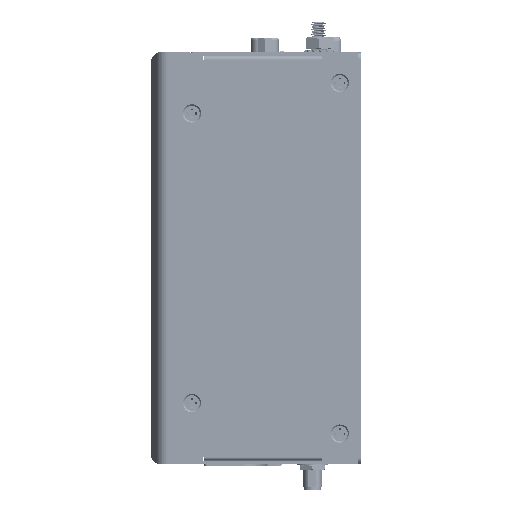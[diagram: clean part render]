
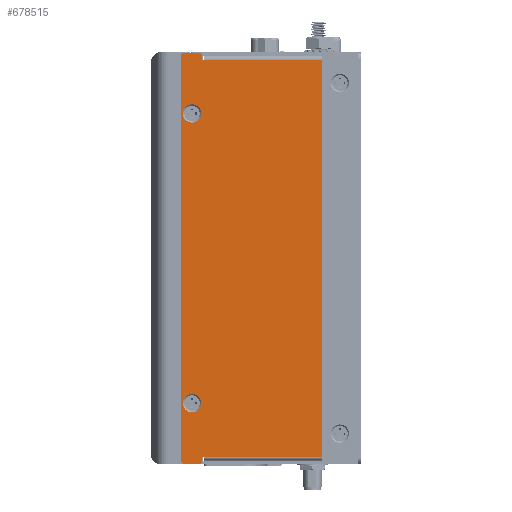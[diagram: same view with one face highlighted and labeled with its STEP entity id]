
A CAD part, left-side view. The second image highlights one B-rep face of the part: STEP entity #678515.
In plain terms, the highlighted planar face has unit normal (-1, 0, 0).
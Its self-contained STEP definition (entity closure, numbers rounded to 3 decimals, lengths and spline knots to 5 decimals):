
#201484=CARTESIAN_POINT('',(-0.075,0.0555,0.0475));
#201485=DIRECTION('',(1.,0.,0.));
#201486=DIRECTION('',(0.,0.,-1.));
#201487=AXIS2_PLACEMENT_3D('',#201484,#201485,#201486);
#201489=CARTESIAN_POINT('',(-0.075,0.0555,0.0475));
#201490=DIRECTION('',(1.,0.,0.));
#201491=DIRECTION('',(0.,0.,1.));
#201492=AXIS2_PLACEMENT_3D('',#201489,#201490,#201491);
#201494=CARTESIAN_POINT('',(-0.075,0.0555,-0.0475));
#201495=DIRECTION('',(1.,0.,0.));
#201496=DIRECTION('',(0.,0.,-1.));
#201497=AXIS2_PLACEMENT_3D('',#201494,#201495,#201496);
#201499=CARTESIAN_POINT('',(-0.075,0.0555,-0.0475));
#201500=DIRECTION('',(1.,0.,0.));
#201501=DIRECTION('',(0.,0.,1.));
#201502=AXIS2_PLACEMENT_3D('',#201499,#201500,#201501);
#201504=DIRECTION('',(0.,0.,1.));
#201505=VECTOR('',#201504,0.13035);
#201506=CARTESIAN_POINT('',(-0.075,0.013,-0.06515));
#201507=LINE('',#201506,#201505);
#201508=CARTESIAN_POINT('',(-0.075,0.05305,-0.0664));
#201509=DIRECTION('',(-1.,0.,0.));
#201510=DIRECTION('',(0.,0.,-1.));
#201511=AXIS2_PLACEMENT_3D('',#201508,#201509,#201510);
#201513=CARTESIAN_POINT('',(-0.075,0.05805,-0.0664));
#201514=DIRECTION('',(-1.,0.,0.));
#201515=DIRECTION('',(0.,1.,0.));
#201516=AXIS2_PLACEMENT_3D('',#201513,#201514,#201515);
#201518=CARTESIAN_POINT('',(-0.075,0.05805,0.0664));
#201519=DIRECTION('',(-1.,0.,0.));
#201520=DIRECTION('',(0.,0.,1.));
#201521=AXIS2_PLACEMENT_3D('',#201518,#201519,#201520);
#201523=CARTESIAN_POINT('',(-0.075,0.05305,0.0664));
#201524=DIRECTION('',(-1.,0.,0.));
#201525=DIRECTION('',(0.,-1.,0.));
#201526=AXIS2_PLACEMENT_3D('',#201523,#201524,#201525);
#201602=DIRECTION('',(0.,-1.,0.));
#201603=VECTOR('',#201602,0.03855);
#201604=CARTESIAN_POINT('',(-0.075,0.05155,0.0652));
#201605=LINE('',#201604,#201603);
#203275=DIRECTION('',(0.,-1.,0.));
#203276=VECTOR('',#203275,0.0005);
#203277=CARTESIAN_POINT('',(-0.075,0.05205,0.0652));
#203278=LINE('',#203277,#203276);
#203283=DIRECTION('',(0.,0.,-1.));
#203284=VECTOR('',#203283,0.0012);
#203285=CARTESIAN_POINT('',(-0.075,0.05205,0.0664));
#203286=LINE('',#203285,#203284);
#203303=DIRECTION('',(0.,-1.,0.));
#203304=VECTOR('',#203303,0.005);
#203305=CARTESIAN_POINT('',(-0.075,0.05805,0.0674));
#203306=LINE('',#203305,#203304);
#203315=DIRECTION('',(0.,0.,1.));
#203316=VECTOR('',#203315,0.1328);
#203317=CARTESIAN_POINT('',(-0.075,0.05905,-0.0664));
#203318=LINE('',#203317,#203316);
#203327=DIRECTION('',(0.,1.,0.));
#203328=VECTOR('',#203327,0.005);
#203329=CARTESIAN_POINT('',(-0.075,0.05305,-0.0674));
#203330=LINE('',#203329,#203328);
#203347=DIRECTION('',(0.,0.,-1.));
#203348=VECTOR('',#203347,0.00125);
#203349=CARTESIAN_POINT('',(-0.075,0.05205,-0.06515));
#203350=LINE('',#203349,#203348);
#203359=DIRECTION('',(0.,1.,0.));
#203360=VECTOR('',#203359,0.0005);
#203361=CARTESIAN_POINT('',(-0.075,0.05155,-0.06515));
#203362=LINE('',#203361,#203360);
#203393=DIRECTION('',(0.,1.,0.));
#203394=VECTOR('',#203393,0.03855);
#203395=CARTESIAN_POINT('',(-0.075,0.013,-0.06515));
#203396=LINE('',#203395,#203394);
#372619=CARTESIAN_POINT('',(-0.075,0.05205,0.0664));
#372620=CARTESIAN_POINT('',(-0.075,0.05305,0.0674));
#372621=VERTEX_POINT('',#372619);
#372622=VERTEX_POINT('',#372620);
#372623=CARTESIAN_POINT('',(-0.075,0.05205,0.0652));
#372624=VERTEX_POINT('',#372623);
#372625=CARTESIAN_POINT('',(-0.075,0.05155,0.0652));
#372626=VERTEX_POINT('',#372625);
#372627=CARTESIAN_POINT('',(-0.075,0.05155,-0.06515));
#372628=CARTESIAN_POINT('',(-0.075,0.05205,-0.06515));
#372629=VERTEX_POINT('',#372627);
#372630=VERTEX_POINT('',#372628);
#372631=CARTESIAN_POINT('',(-0.075,0.05205,-0.0664));
#372632=VERTEX_POINT('',#372631);
#372633=CARTESIAN_POINT('',(-0.075,0.05305,-0.0674));
#372634=VERTEX_POINT('',#372633);
#372635=CARTESIAN_POINT('',(-0.075,0.05805,-0.0674));
#372636=VERTEX_POINT('',#372635);
#372637=CARTESIAN_POINT('',(-0.075,0.05905,-0.0664));
#372638=VERTEX_POINT('',#372637);
#372639=CARTESIAN_POINT('',(-0.075,0.05905,0.0664));
#372640=VERTEX_POINT('',#372639);
#372641=CARTESIAN_POINT('',(-0.075,0.05805,0.0674));
#372642=VERTEX_POINT('',#372641);
#372643=CARTESIAN_POINT('',(-0.075,0.0555,-0.0445));
#372644=CARTESIAN_POINT('',(-0.075,0.0555,-0.0505));
#372645=VERTEX_POINT('',#372643);
#372646=VERTEX_POINT('',#372644);
#372647=CARTESIAN_POINT('',(-0.075,0.0555,0.0505));
#372648=CARTESIAN_POINT('',(-0.075,0.0555,0.0445));
#372649=VERTEX_POINT('',#372647);
#372650=VERTEX_POINT('',#372648);
#391803=CARTESIAN_POINT('',(-0.075,0.013,-0.06515));
#391804=CARTESIAN_POINT('',(-0.075,0.013,0.0652));
#391805=VERTEX_POINT('',#391803);
#391806=VERTEX_POINT('',#391804);
#678470=CARTESIAN_POINT('',(-0.075,0.00105,0.0652));
#678471=DIRECTION('',(-1.,0.,0.));
#678472=DIRECTION('',(0.,0.,1.));
#678473=AXIS2_PLACEMENT_3D('',#678470,#678471,#678472);
#678474=PLANE('',#678473);
#678476=ORIENTED_EDGE('',*,*,#678475,.F.);
#678478=ORIENTED_EDGE('',*,*,#678477,.T.);
#678480=ORIENTED_EDGE('',*,*,#678479,.T.);
#678482=ORIENTED_EDGE('',*,*,#678481,.T.);
#678484=ORIENTED_EDGE('',*,*,#678483,.F.);
#678486=ORIENTED_EDGE('',*,*,#678485,.T.);
#678488=ORIENTED_EDGE('',*,*,#678487,.F.);
#678490=ORIENTED_EDGE('',*,*,#678489,.T.);
#678492=ORIENTED_EDGE('',*,*,#678491,.F.);
#678494=ORIENTED_EDGE('',*,*,#678493,.T.);
#678496=ORIENTED_EDGE('',*,*,#678495,.F.);
#678498=ORIENTED_EDGE('',*,*,#678497,.T.);
#678500=ORIENTED_EDGE('',*,*,#678499,.T.);
#678502=ORIENTED_EDGE('',*,*,#678501,.T.);
#678503=EDGE_LOOP('',(#678476,#678478,#678480,#678482,#678484,#678486,#678488,
#678490,#678492,#678494,#678496,#678498,#678500,#678502));
#678504=FACE_OUTER_BOUND('',#678503,.F.);
#678506=ORIENTED_EDGE('',*,*,#678505,.F.);
#678508=ORIENTED_EDGE('',*,*,#678507,.F.);
#678509=EDGE_LOOP('',(#678506,#678508));
#678510=FACE_BOUND('',#678509,.F.);
#678511=ORIENTED_EDGE('',*,*,#678449,.F.);
#678512=ORIENTED_EDGE('',*,*,#678463,.F.);
#678513=EDGE_LOOP('',(#678511,#678512));
#678514=FACE_BOUND('',#678513,.F.);
#678515=ADVANCED_FACE('',(#678504,#678510,#678514),#678474,.T.);
#201488=CIRCLE('',#201487,0.003);
#201493=CIRCLE('',#201492,0.003);
#201498=CIRCLE('',#201497,0.003);
#201503=CIRCLE('',#201502,0.003);
#201512=CIRCLE('',#201511,0.001);
#201517=CIRCLE('',#201516,0.001);
#201522=CIRCLE('',#201521,0.001);
#201527=CIRCLE('',#201526,0.001);
#678449=EDGE_CURVE('',#372650,#372649,#201488,.T.);
#678463=EDGE_CURVE('',#372649,#372650,#201493,.T.);
#678475=EDGE_CURVE('',#391805,#391806,#201507,.T.);
#678477=EDGE_CURVE('',#391805,#372629,#203396,.T.);
#678479=EDGE_CURVE('',#372629,#372630,#203362,.T.);
#678481=EDGE_CURVE('',#372630,#372632,#203350,.T.);
#678483=EDGE_CURVE('',#372634,#372632,#201512,.T.);
#678485=EDGE_CURVE('',#372634,#372636,#203330,.T.);
#678487=EDGE_CURVE('',#372638,#372636,#201517,.T.);
#678489=EDGE_CURVE('',#372638,#372640,#203318,.T.);
#678491=EDGE_CURVE('',#372642,#372640,#201522,.T.);
#678493=EDGE_CURVE('',#372642,#372622,#203306,.T.);
#678495=EDGE_CURVE('',#372621,#372622,#201527,.T.);
#678497=EDGE_CURVE('',#372621,#372624,#203286,.T.);
#678499=EDGE_CURVE('',#372624,#372626,#203278,.T.);
#678501=EDGE_CURVE('',#372626,#391806,#201605,.T.);
#678505=EDGE_CURVE('',#372646,#372645,#201498,.T.);
#678507=EDGE_CURVE('',#372645,#372646,#201503,.T.);
